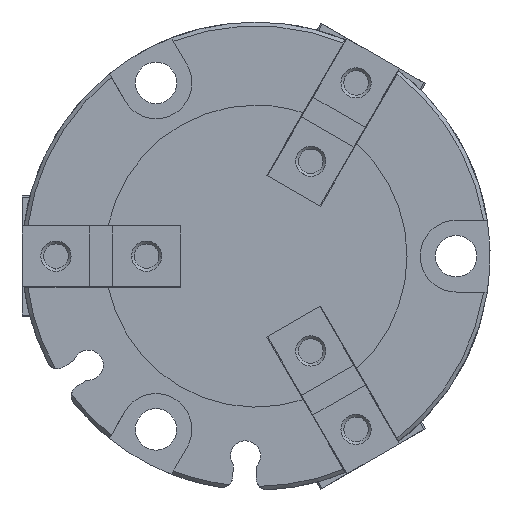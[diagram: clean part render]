
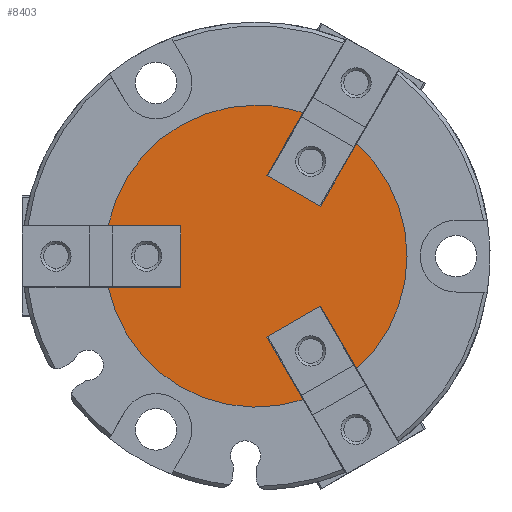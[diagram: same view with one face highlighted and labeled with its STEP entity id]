
A CAD part, left-side view. The second image highlights one B-rep face of the part: STEP entity #8403.
In plain terms, the highlighted planar face has unit normal (-1, 0, 0).
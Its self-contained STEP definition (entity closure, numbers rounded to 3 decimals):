
#10 = CARTESIAN_POINT ( 'NONE',  ( 1.5, -1.449, -10.71 ) ) ;
#38 = CARTESIAN_POINT ( 'NONE',  ( 1.5, 10., -4.1 ) ) ;
#158 = CIRCLE ( 'NONE', #5467, 20. ) ;
#202 = VERTEX_POINT ( 'NONE', #10475 ) ;
#438 = ORIENTED_EDGE ( 'NONE', *, *, #1700, .T. ) ;
#454 = ORIENTED_EDGE ( 'NONE', *, *, #10078, .T. ) ;
#508 = DIRECTION ( 'NONE',  ( 0., -0.5, -0.866 ) ) ;
#546 = AXIS2_PLACEMENT_3D ( 'NONE', #4839, #1428, #629 ) ;
#605 = DIRECTION ( 'NONE',  ( 0., -1., 0. ) ) ;
#629 = DIRECTION ( 'NONE',  ( 0., 0., 1. ) ) ;
#643 = DIRECTION ( 'NONE',  ( 0., 0.866, -0.5 ) ) ;
#854 = EDGE_CURVE ( 'NONE', #3409, #9029, #4698, .T. ) ;
#882 = CARTESIAN_POINT ( 'NONE',  ( 1.5, 0., 20. ) ) ;
#1120 = ORIENTED_EDGE ( 'NONE', *, *, #854, .T. ) ;
#1154 = CARTESIAN_POINT ( 'NONE',  ( 1.5, 10., 0. ) ) ;
#1185 = AXIS2_PLACEMENT_3D ( 'NONE', #7383, #7450, #10719 ) ;
#1209 = EDGE_CURVE ( 'NONE', #3409, #9241, #1935, .T. ) ;
#1428 = DIRECTION ( 'NONE',  ( 1., 0., 0. ) ) ;
#1454 = VECTOR ( 'NONE', #9304, 1000. ) ;
#1591 = PLANE ( 'NONE',  #4179 ) ;
#1699 = CARTESIAN_POINT ( 'NONE',  ( 1.5, -5., 8.66 ) ) ;
#1700 = EDGE_CURVE ( 'NONE', #5803, #4895, #3109, .T. ) ;
#1768 = CARTESIAN_POINT ( 'NONE',  ( 1.5, -1.449, -10.71 ) ) ;
#1935 = CIRCLE ( 'NONE', #1185, 20. ) ;
#2126 = EDGE_LOOP ( 'NONE', ( #3191, #3661, #1120, #2432, #454, #6586, #438, #8399, #8861, #7176, #7684, #10413, #8993 ) ) ;
#2152 = LINE ( 'NONE', #8654, #8352 ) ;
#2176 = EDGE_CURVE ( 'NONE', #202, #9569, #8693, .T. ) ;
#2196 = EDGE_CURVE ( 'NONE', #9776, #9029, #6532, .T. ) ;
#2206 = CARTESIAN_POINT ( 'NONE',  ( 1.5, 0., 0. ) ) ;
#2214 = DIRECTION ( 'NONE',  ( 0., -0.5, 0.866 ) ) ;
#2231 = VECTOR ( 'NONE', #643, 1000. ) ;
#2278 = EDGE_CURVE ( 'NONE', #3986, #9241, #3640, .T. ) ;
#2338 = CIRCLE ( 'NONE', #10483, 20. ) ;
#2432 = ORIENTED_EDGE ( 'NONE', *, *, #2196, .F. ) ;
#2512 = VERTEX_POINT ( 'NONE', #882 ) ;
#2762 = VERTEX_POINT ( 'NONE', #6956 ) ;
#3018 = CARTESIAN_POINT ( 'NONE',  ( 1.5, 0., 0. ) ) ;
#3055 = LINE ( 'NONE', #1699, #3818 ) ;
#3109 = LINE ( 'NONE', #8671, #4927 ) ;
#3191 = ORIENTED_EDGE ( 'NONE', *, *, #2278, .T. ) ;
#3409 = VERTEX_POINT ( 'NONE', #7658 ) ;
#3427 = VECTOR ( 'NONE', #2214, 1000. ) ;
#3604 = VERTEX_POINT ( 'NONE', #6000 ) ;
#3640 = LINE ( 'NONE', #6548, #10136 ) ;
#3661 = ORIENTED_EDGE ( 'NONE', *, *, #1209, .F. ) ;
#3733 = DIRECTION ( 'NONE',  ( 0., 0., 1. ) ) ;
#3769 = DIRECTION ( 'NONE',  ( 1., 0., 0. ) ) ;
#3818 = VECTOR ( 'NONE', #9050, 1000. ) ;
#3986 = VERTEX_POINT ( 'NONE', #38 ) ;
#4022 = CARTESIAN_POINT ( 'NONE',  ( 1.5, -8.551, 6.61 ) ) ;
#4092 = DIRECTION ( 'NONE',  ( 0., 1., 0. ) ) ;
#4173 = CARTESIAN_POINT ( 'NONE',  ( 1.5, 10., 4.1 ) ) ;
#4179 = AXIS2_PLACEMENT_3D ( 'NONE', #8123, #9802, #8981 ) ;
#4400 = CARTESIAN_POINT ( 'NONE',  ( 1.5, -13.338, 14.903 ) ) ;
#4587 = EDGE_CURVE ( 'NONE', #5803, #2762, #10536, .T. ) ;
#4698 = LINE ( 'NONE', #1768, #1454 ) ;
#4839 = CARTESIAN_POINT ( 'NONE',  ( 1.5, 0., 0. ) ) ;
#4895 = VERTEX_POINT ( 'NONE', #4022 ) ;
#4927 = VECTOR ( 'NONE', #7913, 1000. ) ;
#5429 = DIRECTION ( 'NONE',  ( 0., 0., 1. ) ) ;
#5467 = AXIS2_PLACEMENT_3D ( 'NONE', #3018, #3769, #8759 ) ;
#5509 = CARTESIAN_POINT ( 'NONE',  ( 1.5, 10., 4.1 ) ) ;
#5528 = DIRECTION ( 'NONE',  ( 1., 0., 0. ) ) ;
#5542 = CARTESIAN_POINT ( 'NONE',  ( 1.5, -1.449, 10.71 ) ) ;
#5803 = VERTEX_POINT ( 'NONE', #4400 ) ;
#5880 = EDGE_CURVE ( 'NONE', #3986, #9569, #10717, .T. ) ;
#6000 = CARTESIAN_POINT ( 'NONE',  ( 1.5, -1.449, 10.71 ) ) ;
#6438 = CARTESIAN_POINT ( 'NONE',  ( 1.5, -6.237, 19.003 ) ) ;
#6514 = EDGE_CURVE ( 'NONE', #2512, #10692, #2338, .T. ) ;
#6532 = LINE ( 'NONE', #8863, #2231 ) ;
#6548 = CARTESIAN_POINT ( 'NONE',  ( 1.5, 10., -4.1 ) ) ;
#6586 = ORIENTED_EDGE ( 'NONE', *, *, #4587, .F. ) ;
#6956 = CARTESIAN_POINT ( 'NONE',  ( 1.5, -13.338, -14.903 ) ) ;
#7061 = LINE ( 'NONE', #5542, #3427 ) ;
#7176 = ORIENTED_EDGE ( 'NONE', *, *, #6514, .F. ) ;
#7383 = CARTESIAN_POINT ( 'NONE',  ( 1.5, 0., 0. ) ) ;
#7450 = DIRECTION ( 'NONE',  ( 1., 0., 0. ) ) ;
#7658 = CARTESIAN_POINT ( 'NONE',  ( 1.5, -6.237, -19.003 ) ) ;
#7684 = ORIENTED_EDGE ( 'NONE', *, *, #8468, .F. ) ;
#7817 = CARTESIAN_POINT ( 'NONE',  ( 1.5, 19.575, -4.1 ) ) ;
#7913 = DIRECTION ( 'NONE',  ( 0., 0.5, -0.866 ) ) ;
#8086 = CARTESIAN_POINT ( 'NONE',  ( 1.5, -8.551, -6.61 ) ) ;
#8123 = CARTESIAN_POINT ( 'NONE',  ( 1.5, 0., 0. ) ) ;
#8352 = VECTOR ( 'NONE', #508, 1000. ) ;
#8399 = ORIENTED_EDGE ( 'NONE', *, *, #10220, .F. ) ;
#8403 = ADVANCED_FACE ( 'NONE', ( #9327 ), #1591, .F. ) ;
#8468 = EDGE_CURVE ( 'NONE', #202, #2512, #158, .T. ) ;
#8553 = VECTOR ( 'NONE', #605, 1000. ) ;
#8654 = CARTESIAN_POINT ( 'NONE',  ( 1.5, -8.551, -6.61 ) ) ;
#8671 = CARTESIAN_POINT ( 'NONE',  ( 1.5, -8.551, 6.61 ) ) ;
#8693 = LINE ( 'NONE', #5509, #8553 ) ;
#8751 = VECTOR ( 'NONE', #3733, 1000. ) ;
#8759 = DIRECTION ( 'NONE',  ( 0., 0., 1. ) ) ;
#8861 = ORIENTED_EDGE ( 'NONE', *, *, #10577, .T. ) ;
#8863 = CARTESIAN_POINT ( 'NONE',  ( 1.5, -8.551, -6.61 ) ) ;
#8981 = DIRECTION ( 'NONE',  ( 0., 0., -1. ) ) ;
#8993 = ORIENTED_EDGE ( 'NONE', *, *, #5880, .F. ) ;
#9029 = VERTEX_POINT ( 'NONE', #10 ) ;
#9050 = DIRECTION ( 'NONE',  ( 0., -0.866, -0.5 ) ) ;
#9241 = VERTEX_POINT ( 'NONE', #7817 ) ;
#9304 = DIRECTION ( 'NONE',  ( 0., 0.5, 0.866 ) ) ;
#9327 = FACE_OUTER_BOUND ( 'NONE', #2126, .T. ) ;
#9569 = VERTEX_POINT ( 'NONE', #4173 ) ;
#9776 = VERTEX_POINT ( 'NONE', #8086 ) ;
#9802 = DIRECTION ( 'NONE',  ( 1., 0., 0. ) ) ;
#10078 = EDGE_CURVE ( 'NONE', #9776, #2762, #2152, .T. ) ;
#10136 = VECTOR ( 'NONE', #4092, 1000. ) ;
#10220 = EDGE_CURVE ( 'NONE', #3604, #4895, #3055, .T. ) ;
#10413 = ORIENTED_EDGE ( 'NONE', *, *, #2176, .T. ) ;
#10475 = CARTESIAN_POINT ( 'NONE',  ( 1.5, 19.575, 4.1 ) ) ;
#10483 = AXIS2_PLACEMENT_3D ( 'NONE', #2206, #5528, #5429 ) ;
#10536 = CIRCLE ( 'NONE', #546, 20. ) ;
#10577 = EDGE_CURVE ( 'NONE', #3604, #10692, #7061, .T. ) ;
#10692 = VERTEX_POINT ( 'NONE', #6438 ) ;
#10717 = LINE ( 'NONE', #1154, #8751 ) ;
#10719 = DIRECTION ( 'NONE',  ( 0., 0., 1. ) ) ;
